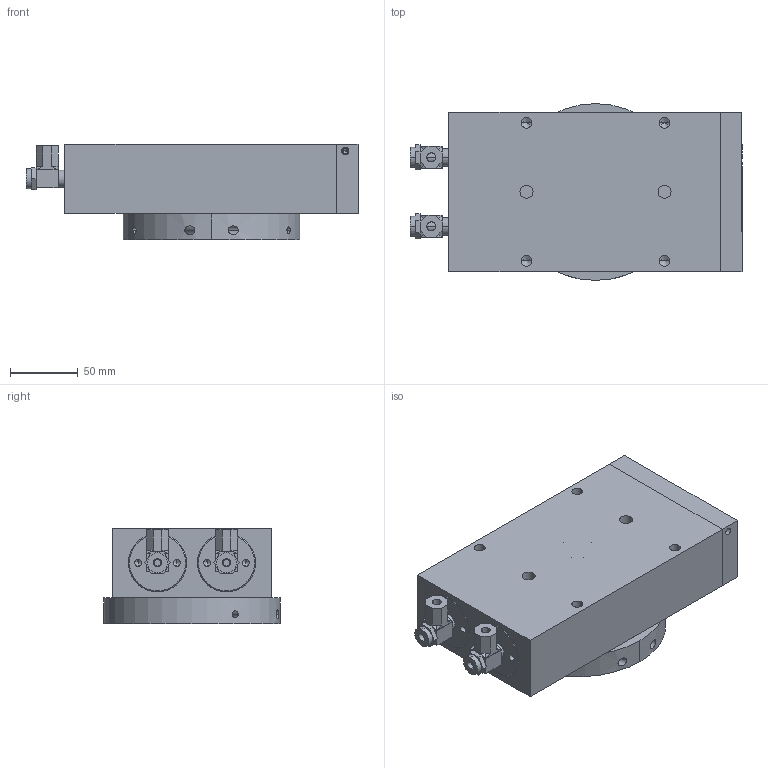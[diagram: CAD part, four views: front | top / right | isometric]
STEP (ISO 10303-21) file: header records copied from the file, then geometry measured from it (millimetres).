
FILE_DESCRIPTION (( 'STEP AP203' ), '1' );
FILE_NAME ('AGR-5 HOME POSITION in IN.STEP', '2014-11-05T19:22:22', ( 'setup' ), ( '' ), 'SwSTEP 2.0', 'SolidWorks 2013', '' );
FILE_SCHEMA (( 'CONFIG_CONTROL_DESIGN' ));
Length unit declared in the file: inch
Products named in the file (9): FLOW SQREW1; FLOW SQREW; AGR-5 HOME POSITION in IN; BODY AGR-5001; END PLATE AGR-5011; TOP PLATE AGR-5002; Plug; shaft; pin
Assembly tree (11 placements, depth 2):
  AGR-5 HOME POSITION in IN
    BODY AGR-5001
    END PLATE AGR-5011
    TOP PLATE AGR-5002
    Plug  x2
    shaft
    pin
    FLOW SQREW1  x2
    FLOW SQREW  x2
Bounding box: 244.38 x 130.18 x 70.26 mm (x, y, z)
Volume: 924075.8 mm3; surface area: 235284.5 mm2
Topology: 11 solids, 11 shells, 509 faces, 1226 edges, 743 vertices
Faces by surface type: cylinder 256, plane 169, cone 84
Entity records: 14235 total; most frequent: CARTESIAN_POINT 3163, DIRECTION 2230, ORIENTED_EDGE 1948, EDGE_CURVE 974, AXIS2_PLACEMENT_3D 882, VERTEX_POINT 623, EDGE_LOOP 547, VECTOR 466
